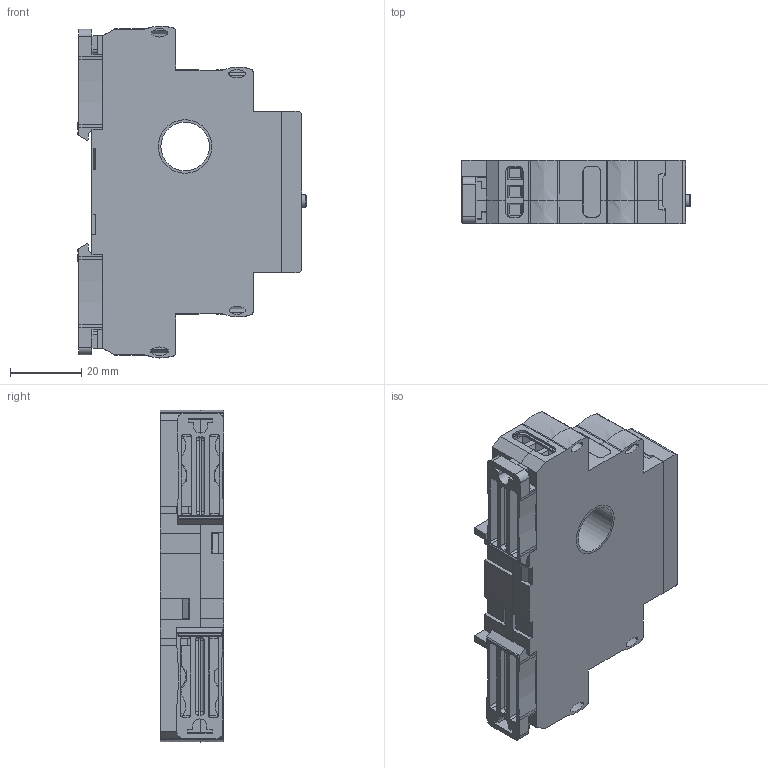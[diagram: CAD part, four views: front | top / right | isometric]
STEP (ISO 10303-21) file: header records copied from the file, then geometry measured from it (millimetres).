
FILE_DESCRIPTION(('STEP AP203'), '1');
FILE_NAME('ﾑ碚濱ﾂﾀﾐ-ﾌ02', '', ('UNSPECIFIED'), ('UNSPECIFIED'), 'ASCON STEP Converter 1.6', 'ASCON Math Kernel', '');
FILE_SCHEMA(('CONFIG_CONTROL_DESIGN'));
Length unit declared in the file: millimetre
Products named in the file (18): Case13-18-23mm_2step_Half_v01a_Build20140909_1552_6.5mm; Case13-18-23mm_2step_Half_v01a_Build20140909_1552_11.25mm; Case13-18-23mm_2step_plug_v01_Build20140909_1552_18mm; Case13-18-23mm_2step_Lock_v01a_Build20140909_1552; Case13-18-23mm_2step_Face_v01_Build20140909_1552_18mm; DG128-5.08_Configurable_5.08x3
Assembly tree (21 placements, depth 3):
  (unnamed)
    Case13-18-23mm_2step_Half_v01a_Build20140909_1552_6.5mm
    Case13-18-23mm_2step_Half_v01a_Build20140909_1552_11.25mm
    Case13-18-23mm_2step_plug_v01_Build20140909_1552_18mm  x4
    Case13-18-23mm_2step_Lock_v01a_Build20140909_1552  x2
    (unnamed)
    (unnamed)
      Case13-18-23mm_2step_Face_v01_Build20140909_1552_18mm
      (unnamed)
      (unnamed)
      (unnamed)
      (unnamed)
      (unnamed)
    DG128-5.08_Configurable_5.08x3
    (unnamed)
    (unnamed)
    (unnamed)
    (unnamed)
Bounding box: 64.05 x 17.76 x 92.99 mm (x, y, z)
Volume: 22307.1 mm3; surface area: 40070 mm2
Topology: 282 solids, 282 shells, 11562 faces, 32867 edges, 21869 vertices
Faces by surface type: plane 8798, extrusion 2459, cylinder 264, cone 24, sphere 8, torus 5, bspline 4
Full cylindrical faces by diameter (mm): 1.238 x3, 3.5 x1, 3.9 x5, 4 x1, 13.6 x1, 15 x3
Entity records: 391886 total; most frequent: CARTESIAN_POINT 89074, ORIENTED_EDGE 64764, DIRECTION 48244, EDGE_CURVE 32382, VECTOR 29436, LINE 26977, VERTEX_POINT 21567, EDGE_LOOP 11747
